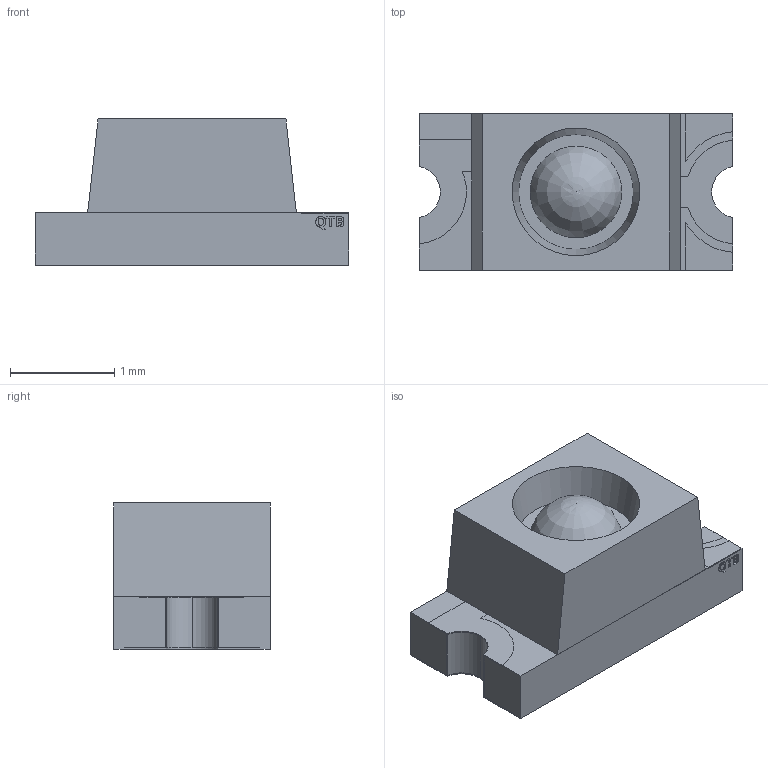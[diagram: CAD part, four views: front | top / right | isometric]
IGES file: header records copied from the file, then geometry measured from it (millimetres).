
Start section: Data from Parasolid IGES Translator 23.1.110, Copyright(c) 2006 Siemens PLM Software. All Rights Reserved.
Global section: file name: 5fab0e70a422af0e7fe96e04.iges; native system: By Siemens PLM Incorporated; preprocessor: XPlus GENERIC/IGES 23.1.110; author: Noname; organization: Noname; date: 20201110.220432; units: metre
Bounding box: 3 x 1.5 x 1.4 mm (x, y, z)
Surface area: 33.4 mm2 (no closed solid volume)
Topology: 0 solids, 0 shells, 166 faces, 835 edges, 834 vertices
Faces by surface type: extrusion 137, revolution 29
